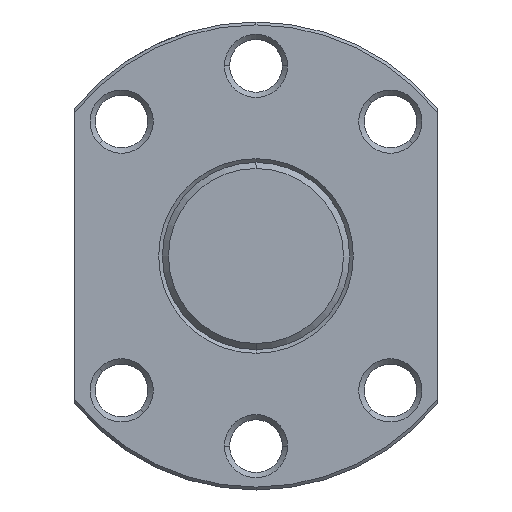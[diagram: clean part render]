
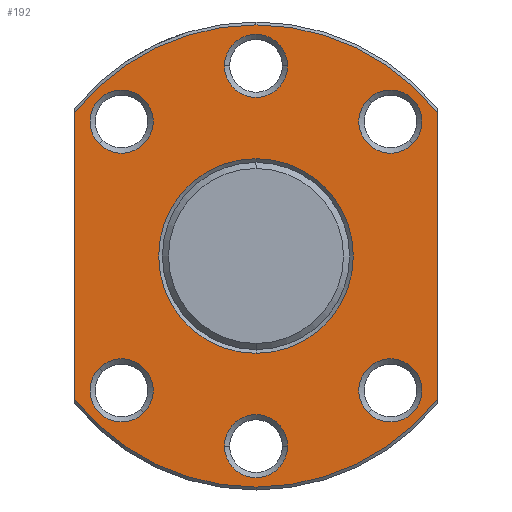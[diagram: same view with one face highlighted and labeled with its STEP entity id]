
A CAD part, left-side view. The second image highlights one B-rep face of the part: STEP entity #192.
In plain terms, the highlighted planar face has unit normal (-1, 0, 0).
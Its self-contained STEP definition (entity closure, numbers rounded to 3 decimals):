
#192=ADVANCED_FACE('',(#348,#349,#350,#351,#352,#353,#354,#355),#356,.T.);
#348=FACE_BOUND('',#521,.T.);
#349=FACE_OUTER_BOUND('',#522,.T.);
#350=FACE_BOUND('',#523,.T.);
#351=FACE_BOUND('',#524,.T.);
#352=FACE_BOUND('',#525,.T.);
#353=FACE_BOUND('',#526,.T.);
#354=FACE_BOUND('',#527,.T.);
#355=FACE_BOUND('',#528,.T.);
#356=PLANE('',#529);
#521=EDGE_LOOP('',(#1051,#1052));
#522=EDGE_LOOP('',(#1053,#1054,#1055,#1056,#1057,#1058));
#523=EDGE_LOOP('',(#1059,#1060));
#524=EDGE_LOOP('',(#1061,#1062));
#525=EDGE_LOOP('',(#1063,#1064));
#526=EDGE_LOOP('',(#1065,#1066));
#527=EDGE_LOOP('',(#1067,#1068));
#528=EDGE_LOOP('',(#1069,#1070));
#529=AXIS2_PLACEMENT_3D('',#1071,#1072,#1073);
#1051=ORIENTED_EDGE('',*,*,#1256,.T.);
#1052=ORIENTED_EDGE('',*,*,#1236,.T.);
#1053=ORIENTED_EDGE('',*,*,#1257,.T.);
#1054=ORIENTED_EDGE('',*,*,#1297,.F.);
#1055=ORIENTED_EDGE('',*,*,#1164,.F.);
#1056=ORIENTED_EDGE('',*,*,#1278,.T.);
#1057=ORIENTED_EDGE('',*,*,#1226,.F.);
#1058=ORIENTED_EDGE('',*,*,#1277,.F.);
#1059=ORIENTED_EDGE('',*,*,#1281,.T.);
#1060=ORIENTED_EDGE('',*,*,#1216,.T.);
#1061=ORIENTED_EDGE('',*,*,#1284,.T.);
#1062=ORIENTED_EDGE('',*,*,#1206,.T.);
#1063=ORIENTED_EDGE('',*,*,#1287,.T.);
#1064=ORIENTED_EDGE('',*,*,#1196,.T.);
#1065=ORIENTED_EDGE('',*,*,#1290,.T.);
#1066=ORIENTED_EDGE('',*,*,#1186,.T.);
#1067=ORIENTED_EDGE('',*,*,#1293,.T.);
#1068=ORIENTED_EDGE('',*,*,#1176,.T.);
#1069=ORIENTED_EDGE('',*,*,#1296,.T.);
#1070=ORIENTED_EDGE('',*,*,#1166,.T.);
#1071=CARTESIAN_POINT('',(25.0,0.0,19.755));
#1072=DIRECTION('',(-1.0,-0.0,0.));
#1073=DIRECTION('',(0.,0.0,-1.0));
#1164=EDGE_CURVE('',#1362,#1360,#1364,.T.);
#1166=EDGE_CURVE('',#1368,#1365,#1369,.T.);
#1176=EDGE_CURVE('',#1386,#1383,#1387,.T.);
#1186=EDGE_CURVE('',#1404,#1401,#1405,.T.);
#1196=EDGE_CURVE('',#1422,#1419,#1423,.T.);
#1206=EDGE_CURVE('',#1440,#1437,#1441,.T.);
#1216=EDGE_CURVE('',#1458,#1455,#1459,.T.);
#1226=EDGE_CURVE('',#1473,#1476,#1477,.T.);
#1236=EDGE_CURVE('',#1494,#1491,#1495,.T.);
#1256=EDGE_CURVE('',#1491,#1494,#1525,.T.);
#1257=EDGE_CURVE('',#1526,#1527,#1528,.T.);
#1277=EDGE_CURVE('',#1526,#1473,#1554,.T.);
#1278=EDGE_CURVE('',#1362,#1476,#1555,.T.);
#1281=EDGE_CURVE('',#1455,#1458,#1558,.T.);
#1284=EDGE_CURVE('',#1437,#1440,#1561,.T.);
#1287=EDGE_CURVE('',#1419,#1422,#1564,.T.);
#1290=EDGE_CURVE('',#1401,#1404,#1567,.T.);
#1293=EDGE_CURVE('',#1383,#1386,#1570,.T.);
#1296=EDGE_CURVE('',#1365,#1368,#1573,.T.);
#1297=EDGE_CURVE('',#1360,#1527,#1574,.T.);
#1360=VERTEX_POINT('',#1661);
#1362=VERTEX_POINT('',#1664);
#1364=CIRCLE('',#1675,39.51);
#1365=VERTEX_POINT('',#1676);
#1368=VERTEX_POINT('',#1680);
#1369=CIRCLE('',#1681,5.4);
#1383=VERTEX_POINT('',#1700);
#1386=VERTEX_POINT('',#1704);
#1387=CIRCLE('',#1705,5.4);
#1401=VERTEX_POINT('',#1724);
#1404=VERTEX_POINT('',#1728);
#1405=CIRCLE('',#1729,5.4);
#1419=VERTEX_POINT('',#1748);
#1422=VERTEX_POINT('',#1752);
#1423=CIRCLE('',#1753,5.4);
#1437=VERTEX_POINT('',#1772);
#1440=VERTEX_POINT('',#1776);
#1441=CIRCLE('',#1777,5.4);
#1455=VERTEX_POINT('',#1796);
#1458=VERTEX_POINT('',#1800);
#1459=CIRCLE('',#1801,5.4);
#1473=VERTEX_POINT('',#1820);
#1476=VERTEX_POINT('',#1824);
#1477=CIRCLE('',#1825,39.51);
#1491=VERTEX_POINT('',#1860);
#1494=VERTEX_POINT('',#1864);
#1495=CIRCLE('',#1865,16.64);
#1525=CIRCLE('',#1971,16.64);
#1526=VERTEX_POINT('',#1972);
#1527=VERTEX_POINT('',#1973);
#1528=LINE('',#1974,#1975);
#1554=CIRCLE('',#2041,39.51);
#1555=LINE('',#2042,#2043);
#1558=CIRCLE('',#2046,5.4);
#1561=CIRCLE('',#2049,5.4);
#1564=CIRCLE('',#2052,5.4);
#1567=CIRCLE('',#2055,5.4);
#1570=CIRCLE('',#2058,5.4);
#1573=CIRCLE('',#2061,5.4);
#1574=CIRCLE('',#2062,39.51);
#1661=CARTESIAN_POINT('',(25.0,0.,-39.51));
#1664=CARTESIAN_POINT('',(25.0,-31.0,-24.496));
#1675=AXIS2_PLACEMENT_3D('',#2133,#2134,#2135);
#1676=CARTESIAN_POINT('',(25.0,-19.163,26.799));
#1680=CARTESIAN_POINT('',(25.0,-26.799,19.163));
#1681=AXIS2_PLACEMENT_3D('',#2137,#2138,#2139);
#1700=CARTESIAN_POINT('',(25.0,5.4,32.5));
#1704=CARTESIAN_POINT('',(25.0,-5.4,32.5));
#1705=AXIS2_PLACEMENT_3D('',#2155,#2156,#2157);
#1724=CARTESIAN_POINT('',(25.0,26.799,19.163));
#1728=CARTESIAN_POINT('',(25.0,19.163,26.799));
#1729=AXIS2_PLACEMENT_3D('',#2173,#2174,#2175);
#1748=CARTESIAN_POINT('',(25.0,19.163,-26.799));
#1752=CARTESIAN_POINT('',(25.0,26.799,-19.163));
#1753=AXIS2_PLACEMENT_3D('',#2191,#2192,#2193);
#1772=CARTESIAN_POINT('',(25.0,-5.4,-32.5));
#1776=CARTESIAN_POINT('',(25.0,5.4,-32.5));
#1777=AXIS2_PLACEMENT_3D('',#2209,#2210,#2211);
#1796=CARTESIAN_POINT('',(25.0,-26.799,-19.163));
#1800=CARTESIAN_POINT('',(25.0,-19.163,-26.799));
#1801=AXIS2_PLACEMENT_3D('',#2227,#2228,#2229);
#1820=CARTESIAN_POINT('',(25.0,0.,39.51));
#1824=CARTESIAN_POINT('',(25.0,-31.0,24.496));
#1825=AXIS2_PLACEMENT_3D('',#2245,#2246,#2247);
#1860=CARTESIAN_POINT('',(25.0,0.0,16.64));
#1864=CARTESIAN_POINT('',(25.0,0.,-16.64));
#1865=AXIS2_PLACEMENT_3D('',#2261,#2262,#2263);
#1971=AXIS2_PLACEMENT_3D('',#2297,#2298,#2299);
#1972=CARTESIAN_POINT('',(25.0,31.0,24.496));
#1973=CARTESIAN_POINT('',(25.0,31.0,-24.496));
#1974=CARTESIAN_POINT('',(25.0,31.0,9.878));
#1975=VECTOR('',#2300,1.0);
#2041=AXIS2_PLACEMENT_3D('',#2338,#2339,#2340);
#2042=CARTESIAN_POINT('',(25.0,-31.0,9.878));
#2043=VECTOR('',#2341,1.0);
#2046=AXIS2_PLACEMENT_3D('',#2348,#2349,#2350);
#2049=AXIS2_PLACEMENT_3D('',#2357,#2358,#2359);
#2052=AXIS2_PLACEMENT_3D('',#2366,#2367,#2368);
#2055=AXIS2_PLACEMENT_3D('',#2375,#2376,#2377);
#2058=AXIS2_PLACEMENT_3D('',#2384,#2385,#2386);
#2061=AXIS2_PLACEMENT_3D('',#2393,#2394,#2395);
#2062=AXIS2_PLACEMENT_3D('',#2396,#2397,#2398);
#2133=CARTESIAN_POINT('',(25.0,0.0,0.0));
#2134=DIRECTION('',(1.0,0.0,-0.0));
#2135=DIRECTION('',(0.0,0.0,1.0));
#2137=CARTESIAN_POINT('',(25.0,-22.981,22.981));
#2138=DIRECTION('',(1.0,0.0,0.));
#2139=DIRECTION('',(0.,0.707,0.707));
#2155=CARTESIAN_POINT('',(25.0,0.0,32.5));
#2156=DIRECTION('',(1.0,-0.0,0.));
#2157=DIRECTION('',(0.0,1.0,0.0));
#2173=CARTESIAN_POINT('',(25.0,22.981,22.981));
#2174=DIRECTION('',(1.0,0.0,0.));
#2175=DIRECTION('',(0.,0.707,-0.707));
#2191=CARTESIAN_POINT('',(25.0,22.981,-22.981));
#2192=DIRECTION('',(1.0,0.0,0.));
#2193=DIRECTION('',(0.,-0.707,-0.707));
#2209=CARTESIAN_POINT('',(25.0,0.0,-32.5));
#2210=DIRECTION('',(1.0,0.0,0.));
#2211=DIRECTION('',(0.0,-1.0,0.0));
#2227=CARTESIAN_POINT('',(25.0,-22.981,-22.981));
#2228=DIRECTION('',(1.0,0.0,0.));
#2229=DIRECTION('',(0.,-0.707,0.707));
#2245=CARTESIAN_POINT('',(25.0,0.0,0.0));
#2246=DIRECTION('',(1.0,0.0,-0.0));
#2247=DIRECTION('',(0.0,0.0,1.0));
#2261=CARTESIAN_POINT('',(25.0,0.0,0.0));
#2262=DIRECTION('',(1.0,0.0,0.));
#2263=DIRECTION('',(0.,0.0,1.0));
#2297=CARTESIAN_POINT('',(25.0,0.0,0.0));
#2298=DIRECTION('',(1.0,0.0,0.));
#2299=DIRECTION('',(0.,0.0,1.0));
#2300=DIRECTION('',(0.,0.0,-1.0));
#2338=CARTESIAN_POINT('',(25.0,0.0,0.0));
#2339=DIRECTION('',(1.0,0.0,-0.0));
#2340=DIRECTION('',(0.0,0.0,1.0));
#2341=DIRECTION('',(0.,0.0,1.0));
#2348=CARTESIAN_POINT('',(25.0,-22.981,-22.981));
#2349=DIRECTION('',(1.0,0.0,0.));
#2350=DIRECTION('',(0.,-0.707,0.707));
#2357=CARTESIAN_POINT('',(25.0,0.0,-32.5));
#2358=DIRECTION('',(1.0,0.0,0.));
#2359=DIRECTION('',(0.0,-1.0,0.0));
#2366=CARTESIAN_POINT('',(25.0,22.981,-22.981));
#2367=DIRECTION('',(1.0,0.0,0.));
#2368=DIRECTION('',(0.,-0.707,-0.707));
#2375=CARTESIAN_POINT('',(25.0,22.981,22.981));
#2376=DIRECTION('',(1.0,0.0,0.));
#2377=DIRECTION('',(0.,0.707,-0.707));
#2384=CARTESIAN_POINT('',(25.0,0.0,32.5));
#2385=DIRECTION('',(1.0,-0.0,0.));
#2386=DIRECTION('',(0.0,1.0,0.0));
#2393=CARTESIAN_POINT('',(25.0,-22.981,22.981));
#2394=DIRECTION('',(1.0,0.0,0.));
#2395=DIRECTION('',(0.,0.707,0.707));
#2396=CARTESIAN_POINT('',(25.0,0.0,0.0));
#2397=DIRECTION('',(1.0,0.0,-0.0));
#2398=DIRECTION('',(0.0,0.0,1.0));
